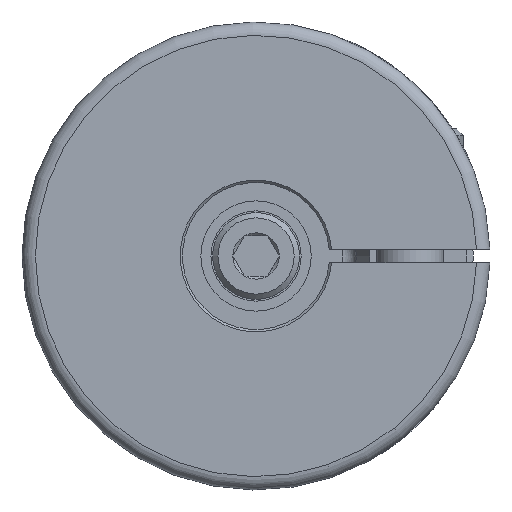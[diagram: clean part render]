
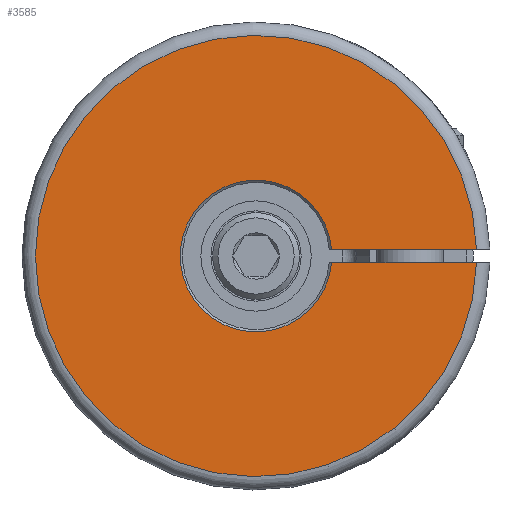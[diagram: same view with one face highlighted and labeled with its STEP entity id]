
A CAD part, left-side view. The second image highlights one B-rep face of the part: STEP entity #3585.
In plain terms, the highlighted planar face has unit normal (-1, 0, 0).
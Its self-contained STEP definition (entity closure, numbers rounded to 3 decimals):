
#154=PLANE('',#4317);
#224=CIRCLE('',#4318,33.);
#225=CIRCLE('',#4319,11.35);
#517=LINE('',#6158,#637);
#518=LINE('',#6163,#638);
#637=VECTOR('',#4892,1000.);
#638=VECTOR('',#4895,1000.);
#771=ORIENTED_EDGE('',*,*,#1857,.T.);
#772=ORIENTED_EDGE('',*,*,#1858,.F.);
#773=ORIENTED_EDGE('',*,*,#1859,.T.);
#774=ORIENTED_EDGE('',*,*,#1860,.T.);
#1857=EDGE_CURVE('',#2400,#2401,#517,.T.);
#1858=EDGE_CURVE('',#2402,#2401,#224,.T.);
#1859=EDGE_CURVE('',#2402,#2403,#518,.T.);
#1860=EDGE_CURVE('',#2403,#2400,#225,.T.);
#2400=VERTEX_POINT('',#6159);
#2401=VERTEX_POINT('',#6160);
#2402=VERTEX_POINT('',#6162);
#2403=VERTEX_POINT('',#6164);
#2871=EDGE_LOOP('',(#771,#772,#773,#774));
#3187=FACE_BOUND('',#2871,.T.);
#3585=ADVANCED_FACE('',(#3187),#154,.F.);
#4317=AXIS2_PLACEMENT_3D('',#6157,#4890,#4891);
#4318=AXIS2_PLACEMENT_3D('',#6161,#4893,#4894);
#4319=AXIS2_PLACEMENT_3D('',#6165,#4896,#4897);
#4890=DIRECTION('',(1.,0.,0.));
#4891=DIRECTION('',(0.,0.,-1.));
#4892=DIRECTION('',(0.,-1.,0.));
#4893=DIRECTION('',(1.,0.,0.));
#4894=DIRECTION('',(0.,0.,-1.));
#4895=DIRECTION('',(0.,1.,0.));
#4896=DIRECTION('',(1.,0.,0.));
#4897=DIRECTION('',(0.,0.,-1.));
#6157=CARTESIAN_POINT('',(0.,0.,0.));
#6158=CARTESIAN_POINT('',(0.,0.,1.));
#6159=CARTESIAN_POINT('',(0.,-11.306,1.));
#6160=CARTESIAN_POINT('',(0.,-32.985,1.));
#6161=CARTESIAN_POINT('',(0.,0.,0.));
#6162=CARTESIAN_POINT('',(0.,-32.985,-1.));
#6163=CARTESIAN_POINT('',(0.,-36.,-1.));
#6164=CARTESIAN_POINT('',(0.,-11.306,-1.));
#6165=CARTESIAN_POINT('',(0.,0.,0.));
